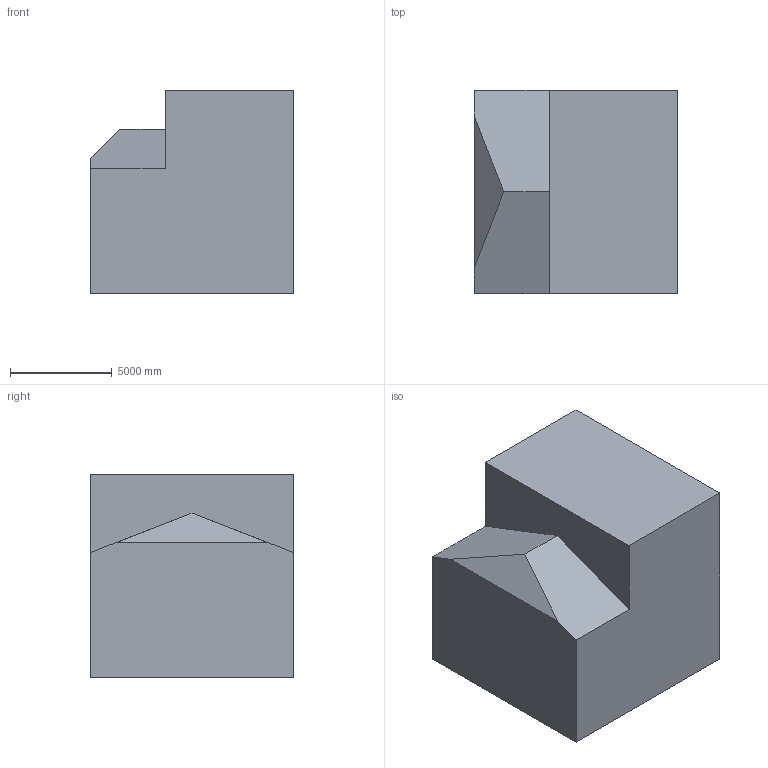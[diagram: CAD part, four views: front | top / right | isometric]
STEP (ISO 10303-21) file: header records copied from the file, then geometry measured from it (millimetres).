
FILE_DESCRIPTION (( 'STEP AP203' ), '1' );
FILE_NAME ('319.STEP', '2022-07-28T14:19:34', ( 'user' ), ( '' ), 'SwSTEP 2.0', 'SolidWorks 2021', '' );
FILE_SCHEMA (( 'CONFIG_CONTROL_DESIGN' ));
Length unit declared in the file: centimetre
Products named in the file (1): 319
Bounding box: 10000 x 10000 x 10000 mm (x, y, z)
Volume: 817097633702.5 mm3; surface area: 652779382.3 mm2
Topology: 1 solids, 1 shells, 19 faces, 48 edges, 32 vertices
Faces by surface type: plane 18, cylinder 1
Entity records: 641 total; most frequent: CARTESIAN_POINT 100, ORIENTED_EDGE 96, DIRECTION 90, EDGE_CURVE 48, VECTOR 46, LINE 46, VERTEX_POINT 32, AXIS2_PLACEMENT_3D 22
